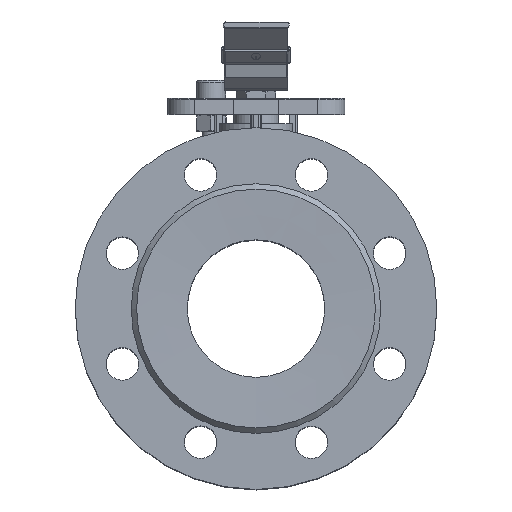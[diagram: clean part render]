
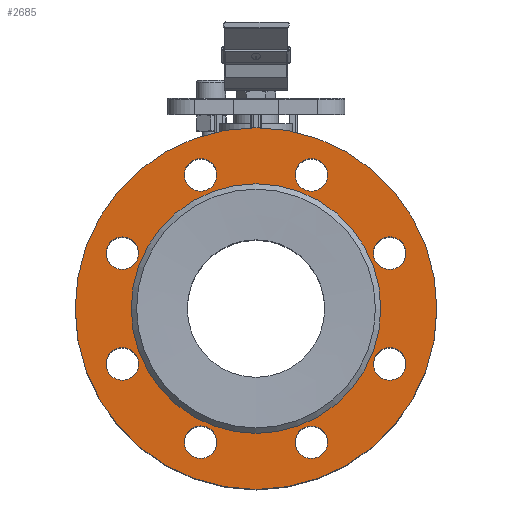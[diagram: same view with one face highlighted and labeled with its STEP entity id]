
A CAD part, top view. The second image highlights one B-rep face of the part: STEP entity #2685.
In plain terms, the highlighted planar face has unit normal (0, 0, 1).
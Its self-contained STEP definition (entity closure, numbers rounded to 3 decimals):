
#2685=ADVANCED_FACE('',(#9033,#9035,#9037,#9039,#9041,#9043,#9045,#9047,#9049,#9051),
#9053,.F.);
#9033=FACE_BOUND('',#9034,.T.);
#9034=EDGE_LOOP('',(#14154));
#9035=FACE_BOUND('',#9036,.T.);
#9036=EDGE_LOOP('',(#14155));
#9037=FACE_BOUND('',#9038,.T.);
#9038=EDGE_LOOP('',(#14156));
#9039=FACE_BOUND('',#9040,.T.);
#9040=EDGE_LOOP('',(#14157));
#9041=FACE_BOUND('',#9042,.T.);
#9042=EDGE_LOOP('',(#14158));
#9043=FACE_BOUND('',#9044,.T.);
#9044=EDGE_LOOP('',(#14159));
#9045=FACE_BOUND('',#9046,.T.);
#9046=EDGE_LOOP('',(#14160));
#9047=FACE_BOUND('',#9048,.T.);
#9048=EDGE_LOOP('',(#14161));
#9049=FACE_BOUND('',#9050,.T.);
#9050=EDGE_LOOP('',(#14162));
#9051=FACE_BOUND('',#9052,.T.);
#9052=EDGE_LOOP('',(#14163));
#9053=PLANE('',#9054);
#9054=AXIS2_PLACEMENT_3D('',#9055,#9056,#9057);
#9055=CARTESIAN_POINT('',(0.,0.,75.298));
#9056=DIRECTION('',(0.,0.,-1.));
#9057=DIRECTION('',(0.,1.,0.));
#14154=ORIENTED_EDGE('',*,*,#16517,.F.);
#14155=ORIENTED_EDGE('',*,*,#16518,.T.);
#14156=ORIENTED_EDGE('',*,*,#16519,.T.);
#14157=ORIENTED_EDGE('',*,*,#16520,.T.);
#14158=ORIENTED_EDGE('',*,*,#16521,.T.);
#14159=ORIENTED_EDGE('',*,*,#16522,.T.);
#14160=ORIENTED_EDGE('',*,*,#16523,.T.);
#14161=ORIENTED_EDGE('',*,*,#16524,.T.);
#14162=ORIENTED_EDGE('',*,*,#16549,.T.);
#14163=ORIENTED_EDGE('',*,*,#16525,.T.);
#16517=EDGE_CURVE('',#19130,#19130,#19131,.T.);
#16518=EDGE_CURVE('',#19132,#19132,#19133,.F.);
#16519=EDGE_CURVE('',#19134,#19134,#19135,.F.);
#16520=EDGE_CURVE('',#19136,#19136,#19137,.F.);
#16521=EDGE_CURVE('',#19138,#19138,#19139,.F.);
#16522=EDGE_CURVE('',#19140,#19140,#19141,.F.);
#16523=EDGE_CURVE('',#19142,#19142,#19143,.F.);
#16524=EDGE_CURVE('',#19144,#19144,#19145,.F.);
#16525=EDGE_CURVE('',#19146,#19146,#19147,.F.);
#16549=EDGE_CURVE('',#19184,#19184,#19185,.T.);
#19130=VERTEX_POINT('',#31657);
#19131=CIRCLE('',#31658,100.);
#19132=VERTEX_POINT('',#31662);
#19133=CIRCLE('',#31663,9.);
#19134=VERTEX_POINT('',#31667);
#19135=CIRCLE('',#31668,9.);
#19136=VERTEX_POINT('',#31672);
#19137=CIRCLE('',#31673,9.);
#19138=VERTEX_POINT('',#31677);
#19139=CIRCLE('',#31678,9.);
#19140=VERTEX_POINT('',#31682);
#19141=CIRCLE('',#31683,9.);
#19142=VERTEX_POINT('',#31687);
#19143=CIRCLE('',#31688,9.);
#19144=VERTEX_POINT('',#31692);
#19145=CIRCLE('',#31693,9.);
#19146=VERTEX_POINT('',#31697);
#19147=CIRCLE('',#31698,9.);
#19184=VERTEX_POINT('',#31799);
#19185=CIRCLE('',#31800,69.);
#31657=CARTESIAN_POINT('',(0.,-100.,75.298));
#31658=AXIS2_PLACEMENT_3D('',#31659,#31660,#31661);
#31659=CARTESIAN_POINT('',(0.,0.,75.298));
#31660=DIRECTION('',(0.,0.,-1.));
#31661=DIRECTION('',(0.,1.,0.));
#31662=CARTESIAN_POINT('',(80.274,24.251,75.298));
#31663=AXIS2_PLACEMENT_3D('',#31664,#31665,#31666);
#31664=CARTESIAN_POINT('',(73.91,30.615,75.298));
#31665=DIRECTION('',(0.,0.,1.));
#31666=DIRECTION('',(0.707,-0.707,0.));
#31667=CARTESIAN_POINT('',(73.91,-39.615,75.298));
#31668=AXIS2_PLACEMENT_3D('',#31669,#31670,#31671);
#31669=CARTESIAN_POINT('',(73.91,-30.615,75.298));
#31670=DIRECTION('',(0.,0.,1.));
#31671=DIRECTION('',(0.,-1.,0.));
#31672=CARTESIAN_POINT('',(24.251,-80.274,75.298));
#31673=AXIS2_PLACEMENT_3D('',#31674,#31675,#31676);
#31674=CARTESIAN_POINT('',(30.615,-73.91,75.298));
#31675=DIRECTION('',(0.,0.,1.));
#31676=DIRECTION('',(-0.707,-0.707,0.));
#31677=CARTESIAN_POINT('',(-39.615,-73.91,75.298));
#31678=AXIS2_PLACEMENT_3D('',#31679,#31680,#31681);
#31679=CARTESIAN_POINT('',(-30.615,-73.91,75.298));
#31680=DIRECTION('',(0.,0.,1.));
#31681=DIRECTION('',(-1.,0.,0.));
#31682=CARTESIAN_POINT('',(-80.274,-24.251,75.298));
#31683=AXIS2_PLACEMENT_3D('',#31684,#31685,#31686);
#31684=CARTESIAN_POINT('',(-73.91,-30.615,75.298));
#31685=DIRECTION('',(0.,0.,1.));
#31686=DIRECTION('',(-0.707,0.707,0.));
#31687=CARTESIAN_POINT('',(-73.91,39.615,75.298));
#31688=AXIS2_PLACEMENT_3D('',#31689,#31690,#31691);
#31689=CARTESIAN_POINT('',(-73.91,30.615,75.298));
#31690=DIRECTION('',(0.,0.,1.));
#31691=DIRECTION('',(0.,1.,0.));
#31692=CARTESIAN_POINT('',(-24.251,80.274,75.298));
#31693=AXIS2_PLACEMENT_3D('',#31694,#31695,#31696);
#31694=CARTESIAN_POINT('',(-30.615,73.91,75.298));
#31695=DIRECTION('',(0.,0.,1.));
#31696=DIRECTION('',(0.707,0.707,0.));
#31697=CARTESIAN_POINT('',(39.615,73.91,75.298));
#31698=AXIS2_PLACEMENT_3D('',#31699,#31700,#31701);
#31699=CARTESIAN_POINT('',(30.615,73.91,75.298));
#31700=DIRECTION('',(0.,0.,1.));
#31701=DIRECTION('',(1.,0.,0.));
#31799=CARTESIAN_POINT('',(0.,69.,75.298));
#31800=AXIS2_PLACEMENT_3D('',#31801,#31802,#31803);
#31801=CARTESIAN_POINT('',(0.,0.,75.298));
#31802=DIRECTION('',(0.,0.,-1.));
#31803=DIRECTION('',(0.,1.,0.));
